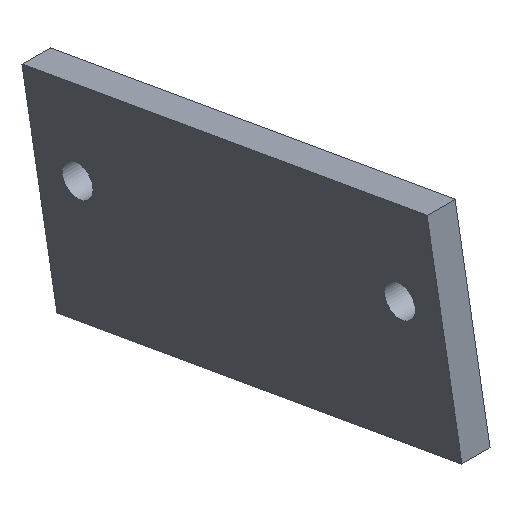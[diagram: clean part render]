
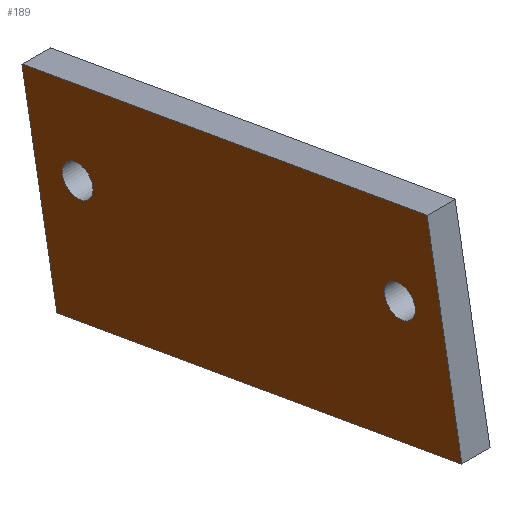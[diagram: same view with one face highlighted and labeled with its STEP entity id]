
A CAD part, isometric view. The second image highlights one B-rep face of the part: STEP entity #189.
In plain terms, the highlighted planar face has unit normal (-1, 0, 0).
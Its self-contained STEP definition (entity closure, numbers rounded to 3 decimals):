
#27=CARTESIAN_POINT('',(-278.5,22.178,1638.333));
#28=VERTEX_POINT('',#27);
#45=CARTESIAN_POINT('',(-278.5,-64.485,1653.614));
#46=VERTEX_POINT('',#45);
#53=CARTESIAN_POINT('',(-278.5,22.178,1638.333));
#54=DIRECTION('',(0.0,-0.985,0.174));
#55=VECTOR('',#54,1.);
#56=LINE('',#53,#55);
#57=EDGE_CURVE('',#28,#46,#56,.T.);
#120=CARTESIAN_POINT('',(-278.5,29.645,1680.679));
#121=VERTEX_POINT('',#120);
#128=CARTESIAN_POINT('',(-278.5,-57.019,1695.96));
#129=VERTEX_POINT('',#128);
#130=CARTESIAN_POINT('',(-278.5,29.645,1680.679));
#131=DIRECTION('',(0.0,-0.985,0.174));
#132=VECTOR('',#131,1.);
#133=LINE('',#130,#132);
#134=EDGE_CURVE('',#121,#129,#133,.T.);
#146=CARTESIAN_POINT('',(-278.5,29.645,1680.679));
#147=DIRECTION('',(-1.0,0.0,0.0));
#148=DIRECTION('',(0.0,-0.174,-0.985));
#149=AXIS2_PLACEMENT_3D('',#146,#147,#148);
#150=PLANE('',#149);
#151=CARTESIAN_POINT('',(-278.5,29.645,1680.679));
#152=DIRECTION('',(0.,-0.174,-0.985));
#153=VECTOR('',#152,1.);
#154=LINE('',#151,#153);
#155=EDGE_CURVE('',#121,#28,#154,.T.);
#156=ORIENTED_EDGE('',*,*,#155,.T.);
#157=ORIENTED_EDGE('',*,*,#57,.T.);
#158=CARTESIAN_POINT('',(-278.5,-57.019,1695.96));
#159=DIRECTION('',(0.,-0.174,-0.985));
#160=VECTOR('',#159,1.);
#161=LINE('',#158,#160);
#162=EDGE_CURVE('',#129,#46,#161,.T.);
#163=ORIENTED_EDGE('',*,*,#162,.F.);
#164=ORIENTED_EDGE('',*,*,#134,.F.);
#165=EDGE_LOOP('',(#156,#157,#163,#164));
#166=FACE_OUTER_BOUND('',#165,.T.);
#167=CARTESIAN_POINT('',(-278.5,18.315,1668.258));
#168=VERTEX_POINT('',#167);
#169=CARTESIAN_POINT('',(-278.5,17.742,1665.008));
#170=DIRECTION('',(1.0,0.,0.));
#171=DIRECTION('',(0.,0.174,0.985));
#172=AXIS2_PLACEMENT_3D('',#169,#170,#171);
#173=CIRCLE('',#172,3.3);
#174=EDGE_CURVE('',#168,#168,#173,.T.);
#175=ORIENTED_EDGE('',*,*,#174,.T.);
#176=EDGE_LOOP('',(#175));
#177=FACE_BOUND('',#176,.T.);
#178=CARTESIAN_POINT('',(-278.5,-50.621,1680.413));
#179=VERTEX_POINT('',#178);
#180=CARTESIAN_POINT('',(-278.5,-51.194,1677.163));
#181=DIRECTION('',(1.0,0.,0.));
#182=DIRECTION('',(0.,0.174,0.985));
#183=AXIS2_PLACEMENT_3D('',#180,#181,#182);
#184=CIRCLE('',#183,3.3);
#185=EDGE_CURVE('',#179,#179,#184,.T.);
#186=ORIENTED_EDGE('',*,*,#185,.T.);
#187=EDGE_LOOP('',(#186));
#188=FACE_BOUND('',#187,.T.);
#189=ADVANCED_FACE('',(#166,#177,#188),#150,.T.);
